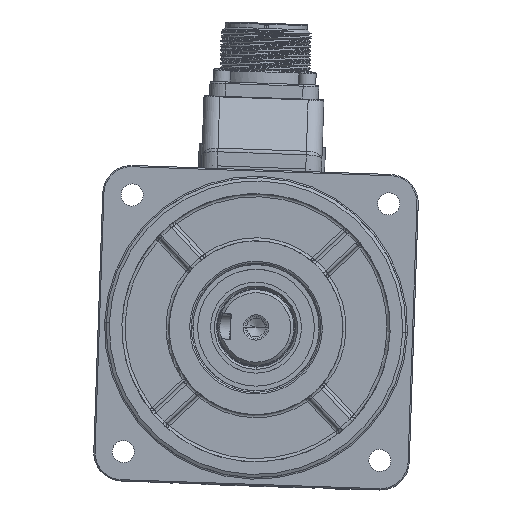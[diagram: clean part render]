
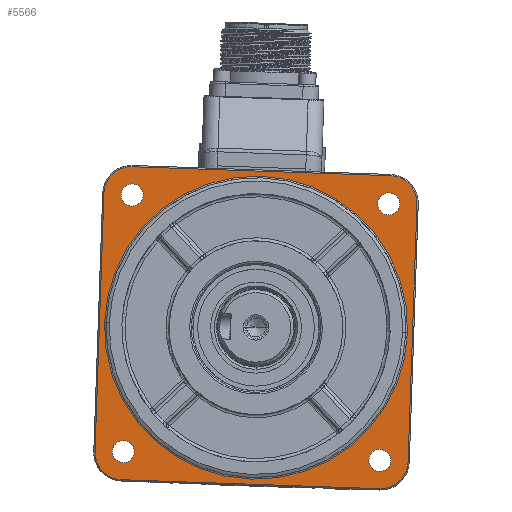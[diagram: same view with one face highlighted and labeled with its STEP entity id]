
A CAD part, top view. The second image highlights one B-rep face of the part: STEP entity #5566.
In plain terms, the highlighted planar face has unit normal (0, 0, 1) as drawn and (0, 1, 0) by its records, which use the part's own axes.
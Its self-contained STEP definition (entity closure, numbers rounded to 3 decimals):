
#165=CARTESIAN_POINT('',(-41.,0.,-41.));
#166=DIRECTION('',(0.,-1.,0.));
#167=DIRECTION('',(-1.,0.,0.));
#168=AXIS2_PLACEMENT_3D('',#165,#166,#167);
#170=DIRECTION('',(1.,0.,0.));
#171=VECTOR('',#170,82.);
#172=CARTESIAN_POINT('',(-41.,0.,
-49.6));
#173=LINE('',#172,#171);
#174=CARTESIAN_POINT('',(41.,0.,-41.));
#175=DIRECTION('',(0.,-1.,0.));
#176=DIRECTION('',(0.,0.,-1.));
#177=AXIS2_PLACEMENT_3D('',#174,#175,#176);
#179=DIRECTION('',(0.,0.,1.));
#180=VECTOR('',#179,82.);
#181=CARTESIAN_POINT('',(49.6,0.,
-41.));
#182=LINE('',#181,#180);
#183=CARTESIAN_POINT('',(41.,0.,41.));
#184=DIRECTION('',(0.,-1.,0.));
#185=DIRECTION('',(1.,0.,0.));
#186=AXIS2_PLACEMENT_3D('',#183,#184,#185);
#188=DIRECTION('',(-1.,0.,0.));
#189=VECTOR('',#188,82.);
#190=CARTESIAN_POINT('',(41.,0.,49.6));
#191=LINE('',#190,#189);
#192=CARTESIAN_POINT('',(-41.,0.,41.));
#193=DIRECTION('',(0.,-1.,0.));
#194=DIRECTION('',(0.,0.,1.));
#195=AXIS2_PLACEMENT_3D('',#192,#193,#194);
#197=DIRECTION('',(0.,0.,-1.));
#198=VECTOR('',#197,82.);
#199=CARTESIAN_POINT('',(-49.6,0.,
41.));
#200=LINE('',#199,#198);
#201=CARTESIAN_POINT('',(-40.659,0.,-40.659));
#202=DIRECTION('',(0.,1.,0.));
#203=DIRECTION('',(0.,0.,1.));
#204=AXIS2_PLACEMENT_3D('',#201,#202,#203);
#206=CARTESIAN_POINT('',(-40.659,0.,-40.659));
#207=DIRECTION('',(0.,1.,0.));
#208=DIRECTION('',(0.,0.,-1.));
#209=AXIS2_PLACEMENT_3D('',#206,#207,#208);
#211=CARTESIAN_POINT('',(-40.659,0.,40.659));
#212=DIRECTION('',(0.,1.,0.));
#213=DIRECTION('',(1.,0.,0.));
#214=AXIS2_PLACEMENT_3D('',#211,#212,#213);
#216=CARTESIAN_POINT('',(-40.659,0.,40.659));
#217=DIRECTION('',(0.,1.,0.));
#218=DIRECTION('',(-1.,0.,0.));
#219=AXIS2_PLACEMENT_3D('',#216,#217,#218);
#221=CARTESIAN_POINT('',(40.659,0.,40.659));
#222=DIRECTION('',(0.,1.,0.));
#223=DIRECTION('',(0.,0.,-1.));
#224=AXIS2_PLACEMENT_3D('',#221,#222,#223);
#226=CARTESIAN_POINT('',(40.659,0.,40.659));
#227=DIRECTION('',(0.,1.,0.));
#228=DIRECTION('',(0.,0.,1.));
#229=AXIS2_PLACEMENT_3D('',#226,#227,#228);
#231=CARTESIAN_POINT('',(0.,0.,0.));
#232=DIRECTION('',(0.,1.,0.));
#233=DIRECTION('',(-1.,0.,0.));
#234=AXIS2_PLACEMENT_3D('',#231,#232,#233);
#236=CARTESIAN_POINT('',(0.,0.,0.));
#237=DIRECTION('',(0.,1.,0.));
#238=DIRECTION('',(-1.,0.,0.006));
#239=AXIS2_PLACEMENT_3D('',#236,#237,#238);
#241=CARTESIAN_POINT('',(0.,0.,0.));
#242=DIRECTION('',(0.,1.,0.));
#243=DIRECTION('',(1.,0.,0.));
#244=AXIS2_PLACEMENT_3D('',#241,#242,#243);
#246=CARTESIAN_POINT('',(0.,0.,0.));
#247=DIRECTION('',(0.,1.,0.));
#248=DIRECTION('',(1.,0.,-0.006));
#249=AXIS2_PLACEMENT_3D('',#246,#247,#248);
#251=CARTESIAN_POINT('',(40.659,0.,-40.659));
#252=DIRECTION('',(0.,1.,0.));
#253=DIRECTION('',(-1.,0.,0.));
#254=AXIS2_PLACEMENT_3D('',#251,#252,#253);
#256=CARTESIAN_POINT('',(40.659,0.,-40.659));
#257=DIRECTION('',(0.,1.,0.));
#258=DIRECTION('',(1.,0.,0.));
#259=AXIS2_PLACEMENT_3D('',#256,#257,#258);
#5004=CARTESIAN_POINT('',(41.,0.,
49.6));
#5005=CARTESIAN_POINT('',(-41.,0.,
49.6));
#5006=VERTEX_POINT('',#5004);
#5007=VERTEX_POINT('',#5005);
#5008=CARTESIAN_POINT('',(-49.6,0.,-41.));
#5009=CARTESIAN_POINT('',(-41.,0.,-49.6));
#5010=VERTEX_POINT('',#5008);
#5011=VERTEX_POINT('',#5009);
#5012=CARTESIAN_POINT('',(41.,0.,
-49.6));
#5013=VERTEX_POINT('',#5012);
#5014=CARTESIAN_POINT('',(49.6,0.,-41.));
#5015=VERTEX_POINT('',#5014);
#5016=CARTESIAN_POINT('',(49.6,0.,
41.));
#5017=VERTEX_POINT('',#5016);
#5018=CARTESIAN_POINT('',(-49.6,0.,41.));
#5019=VERTEX_POINT('',#5018);
#5020=CARTESIAN_POINT('',(-40.659,0.,-37.159));
#5021=CARTESIAN_POINT('',(-40.659,0.,-44.159));
#5022=VERTEX_POINT('',#5020);
#5023=VERTEX_POINT('',#5021);
#5024=CARTESIAN_POINT('',(-37.159,0.,40.659));
#5025=CARTESIAN_POINT('',(-44.159,0.,40.659));
#5026=VERTEX_POINT('',#5024);
#5027=VERTEX_POINT('',#5025);
#5028=CARTESIAN_POINT('',(40.659,0.,37.159));
#5029=CARTESIAN_POINT('',(40.659,0.,44.159));
#5030=VERTEX_POINT('',#5028);
#5031=VERTEX_POINT('',#5029);
#5032=CARTESIAN_POINT('',(-47.999,0.,0.268));
#5033=CARTESIAN_POINT('',(48.,0.,0.));
#5034=VERTEX_POINT('',#5032);
#5035=VERTEX_POINT('',#5033);
#5036=CARTESIAN_POINT('',(-48.,0.,0.));
#5037=VERTEX_POINT('',#5036);
#5038=CARTESIAN_POINT('',(47.999,0.,-0.268));
#5039=VERTEX_POINT('',#5038);
#5040=CARTESIAN_POINT('',(37.159,0.,-40.659));
#5041=CARTESIAN_POINT('',(44.159,0.,-40.659));
#5042=VERTEX_POINT('',#5040);
#5043=VERTEX_POINT('',#5041);
#5513=CARTESIAN_POINT('',(0.,0.,0.));
#5514=DIRECTION('',(0.,-1.,0.));
#5515=DIRECTION('',(-1.,0.,0.));
#5516=AXIS2_PLACEMENT_3D('',#5513,#5514,#5515);
#5517=PLANE('',#5516);
#5519=ORIENTED_EDGE('',*,*,#5518,.T.);
#5521=ORIENTED_EDGE('',*,*,#5520,.T.);
#5523=ORIENTED_EDGE('',*,*,#5522,.T.);
#5525=ORIENTED_EDGE('',*,*,#5524,.T.);
#5527=ORIENTED_EDGE('',*,*,#5526,.T.);
#5529=ORIENTED_EDGE('',*,*,#5528,.T.);
#5531=ORIENTED_EDGE('',*,*,#5530,.T.);
#5533=ORIENTED_EDGE('',*,*,#5532,.T.);
#5534=EDGE_LOOP('',(#5519,#5521,#5523,#5525,#5527,#5529,#5531,#5533));
#5535=FACE_OUTER_BOUND('',#5534,.F.);
#5537=ORIENTED_EDGE('',*,*,#5536,.T.);
#5539=ORIENTED_EDGE('',*,*,#5538,.T.);
#5540=EDGE_LOOP('',(#5537,#5539));
#5541=FACE_BOUND('',#5540,.F.);
#5543=ORIENTED_EDGE('',*,*,#5542,.T.);
#5545=ORIENTED_EDGE('',*,*,#5544,.T.);
#5546=EDGE_LOOP('',(#5543,#5545));
#5547=FACE_BOUND('',#5546,.F.);
#5549=ORIENTED_EDGE('',*,*,#5548,.T.);
#5551=ORIENTED_EDGE('',*,*,#5550,.T.);
#5552=EDGE_LOOP('',(#5549,#5551));
#5553=FACE_BOUND('',#5552,.F.);
#5554=ORIENTED_EDGE('',*,*,#5490,.T.);
#5555=ORIENTED_EDGE('',*,*,#5488,.T.);
#5556=ORIENTED_EDGE('',*,*,#5507,.T.);
#5557=ORIENTED_EDGE('',*,*,#5505,.T.);
#5558=EDGE_LOOP('',(#5554,#5555,#5556,#5557));
#5559=FACE_BOUND('',#5558,.F.);
#5561=ORIENTED_EDGE('',*,*,#5560,.T.);
#5563=ORIENTED_EDGE('',*,*,#5562,.T.);
#5564=EDGE_LOOP('',(#5561,#5563));
#5565=FACE_BOUND('',#5564,.F.);
#5566=ADVANCED_FACE('',(#5535,#5541,#5547,#5553,#5559,#5565),#5517,.F.);
#169=CIRCLE('',#168,8.6);
#178=CIRCLE('',#177,8.6);
#187=CIRCLE('',#186,8.6);
#196=CIRCLE('',#195,8.6);
#205=CIRCLE('',#204,3.5);
#210=CIRCLE('',#209,3.5);
#215=CIRCLE('',#214,3.5);
#220=CIRCLE('',#219,3.5);
#225=CIRCLE('',#224,3.5);
#230=CIRCLE('',#229,3.5);
#235=CIRCLE('',#234,48.);
#240=CIRCLE('',#239,48.);
#245=CIRCLE('',#244,48.);
#250=CIRCLE('',#249,48.);
#255=CIRCLE('',#254,3.5);
#260=CIRCLE('',#259,3.5);
#5488=EDGE_CURVE('',#5034,#5035,#240,.T.);
#5490=EDGE_CURVE('',#5037,#5034,#235,.T.);
#5505=EDGE_CURVE('',#5039,#5037,#250,.T.);
#5507=EDGE_CURVE('',#5035,#5039,#245,.T.);
#5518=EDGE_CURVE('',#5010,#5011,#169,.T.);
#5520=EDGE_CURVE('',#5011,#5013,#173,.T.);
#5522=EDGE_CURVE('',#5013,#5015,#178,.T.);
#5524=EDGE_CURVE('',#5015,#5017,#182,.T.);
#5526=EDGE_CURVE('',#5017,#5006,#187,.T.);
#5528=EDGE_CURVE('',#5006,#5007,#191,.T.);
#5530=EDGE_CURVE('',#5007,#5019,#196,.T.);
#5532=EDGE_CURVE('',#5019,#5010,#200,.T.);
#5536=EDGE_CURVE('',#5022,#5023,#205,.T.);
#5538=EDGE_CURVE('',#5023,#5022,#210,.T.);
#5542=EDGE_CURVE('',#5026,#5027,#215,.T.);
#5544=EDGE_CURVE('',#5027,#5026,#220,.T.);
#5548=EDGE_CURVE('',#5030,#5031,#225,.T.);
#5550=EDGE_CURVE('',#5031,#5030,#230,.T.);
#5560=EDGE_CURVE('',#5042,#5043,#255,.T.);
#5562=EDGE_CURVE('',#5043,#5042,#260,.T.);
